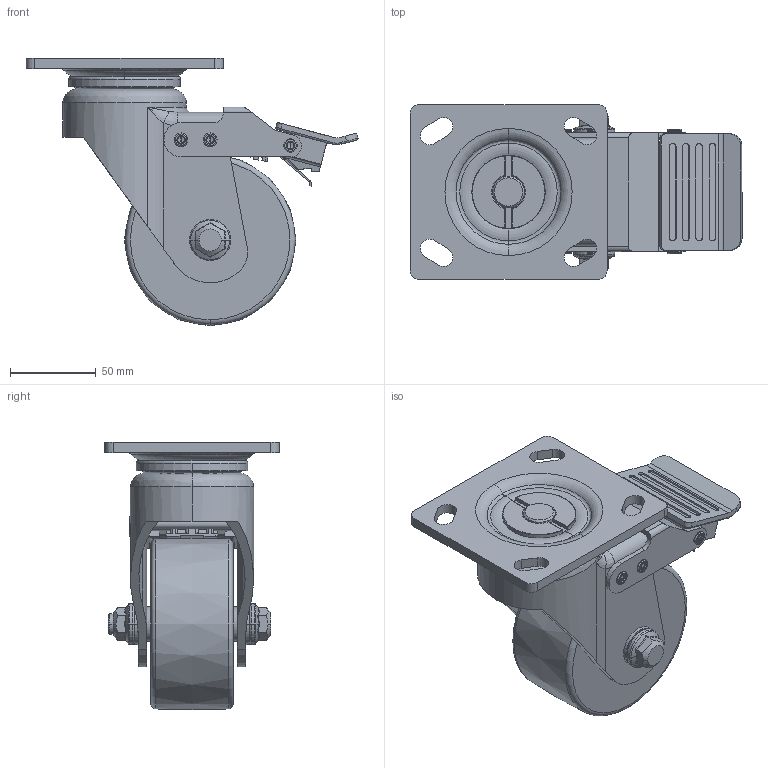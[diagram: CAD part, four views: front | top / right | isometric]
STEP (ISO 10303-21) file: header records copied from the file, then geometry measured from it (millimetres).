
FILE_DESCRIPTION((''),'2;1');
FILE_NAME('GH-100-BSF-MCD.stp','2013-04-30T16:42:37',(''),(''),'Mechanical Desktop 2009','Mechanical Desktop 2009',', , ');
FILE_SCHEMA(('CONFIG_CONTROL_DESIGN'));
Length unit declared in the file: millimetre
Products named in the file (2): GH-100-BSF-MCD; PLATE
Assembly tree (1 placements, depth 2):
  GH-100-BSF-MCD
    PLATE
Bounding box: 193.77 x 102 x 155.95 mm (x, y, z)
Volume: 663912.3 mm3; surface area: 152768.5 mm2
Topology: 5 solids, 5 shells, 713 faces, 1897 edges, 1205 vertices
Faces by surface type: cylinder 266, plane 242, torus 89, bspline 72, cone 36, sphere 8
Entity records: 26302 total; most frequent: CARTESIAN_POINT 8096, DIRECTION 3977, ORIENTED_EDGE 3768, EDGE_CURVE 1884, AXIS2_PLACEMENT_3D 1563, VERTEX_POINT 1205, CIRCLE 868, VECTOR 851
